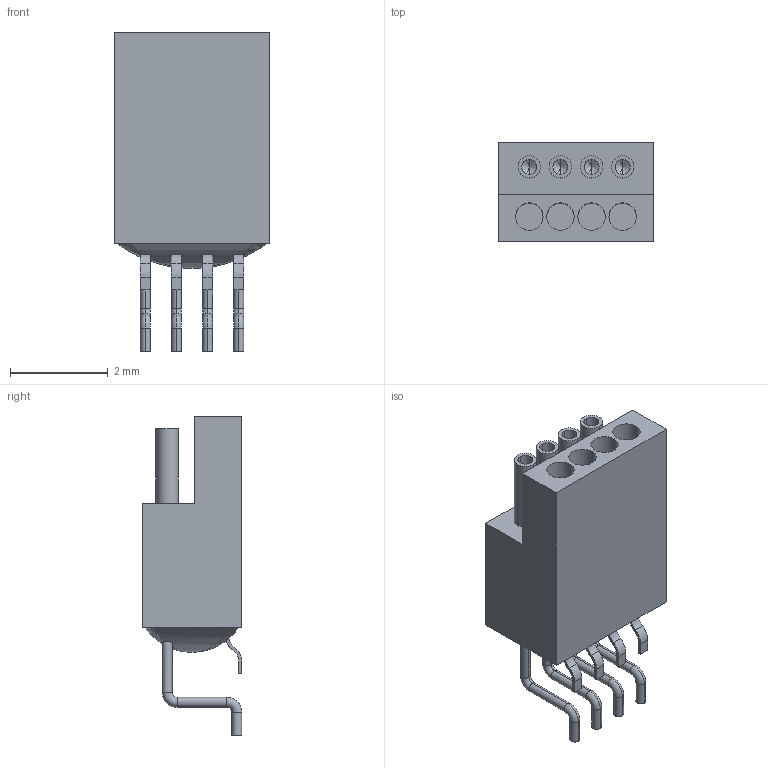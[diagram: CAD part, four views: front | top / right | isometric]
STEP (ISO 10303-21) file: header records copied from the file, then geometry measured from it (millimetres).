
FILE_DESCRIPTION (( 'STEP AP214' ), '1' );
FILE_NAME ('A79613-001 REV D.STEP', '2015-11-06T14:41:53', ( '' ), ( '' ), 'SwSTEP 2.0', 'SolidWorks 2015', '' );
FILE_SCHEMA (( 'AUTOMOTIVE_DESIGN' ));
Length unit declared in the file: inch
Products named in the file (1): A79613-001
Bounding box: 3.17 x 2.03 x 6.53 mm (x, y, z)
Volume: 19.5 mm3; surface area: 117.7 mm2
Topology: 1 solids, 1 shells, 136 faces, 322 edges, 193 vertices
Faces by surface type: cylinder 68, plane 40, torus 16, cone 8, bspline 4
Entity records: 4223 total; most frequent: CARTESIAN_POINT 1079, DIRECTION 684, ORIENTED_EDGE 620, EDGE_CURVE 310, AXIS2_PLACEMENT_3D 275, VERTEX_POINT 193, EDGE_LOOP 153, CIRCLE 142
